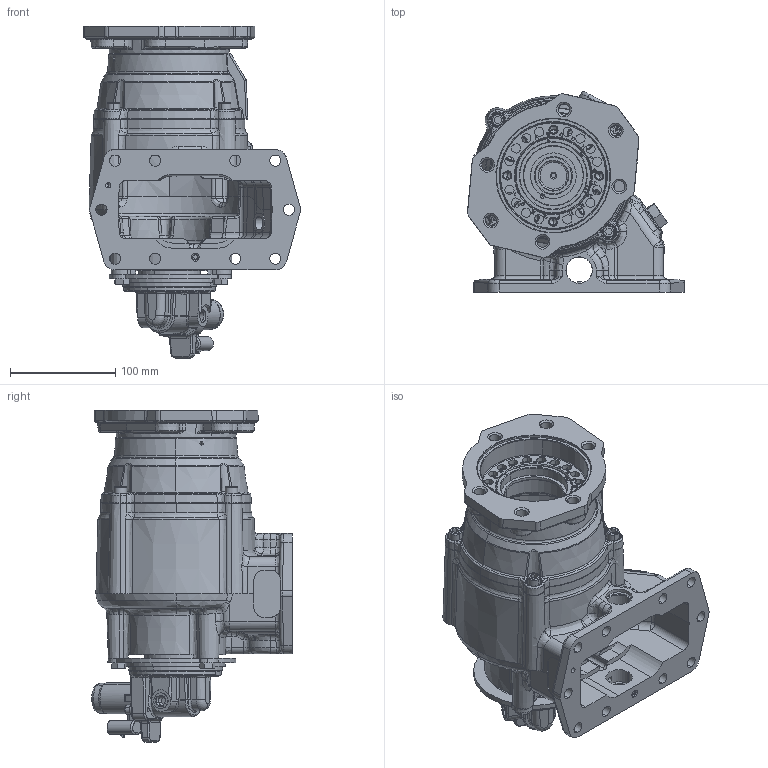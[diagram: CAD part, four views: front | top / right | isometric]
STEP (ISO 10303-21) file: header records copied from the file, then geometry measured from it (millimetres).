
FILE_DESCRIPTION (( 'STEP AP203' ), '1' );
FILE_NAME ('A20-A10XX-HX3PBPX.STEP', '2023-03-28T14:46:47', ( '' ), ( '' ), 'SwSTEP 2.0', 'SolidWorks 2021', '' );
FILE_SCHEMA (( 'CONFIG_CONTROL_DESIGN' ));
Length unit declared in the file: inch
Products named in the file (14): 47T6123TMP_Solenoid; 01T43433_3Arrangement; 15T65391DB3; 19T36588_19T36588; 14T65388DB2; DropInSolenoidRearCoverAssembly; 15T43431_FOR CLAMPS; SC-301_25T37702; 47T6123_15T43431_DUST CAP INSTALLED; 35T40860; 19T62950; 25T35999TMP; 12T36701; A20-A10XX-HX3PBPX
Assembly tree (17 placements, depth 4):
  A20-A10XX-HX3PBPX
    01T43433_3Arrangement
    15T65391DB3
    25T35999TMP
    14T65388DB2
    19T36588_19T36588  x4
    DropInSolenoidRearCoverAssembly
      47T6123TMP_Solenoid
      47T6123_15T43431_DUST CAP INSTALLED
        15T43431_FOR CLAMPS
        19T62950  x2
        12T36701
        SC-301_25T37702
    35T40860
Bounding box: 205.86 x 190.36 x 314.97 mm (x, y, z)
Volume: 777177.6 mm3; surface area: 460563.4 mm2
Topology: 24 solids, 36 shells, 4378 faces, 11277 edges, 7028 vertices
Faces by surface type: plane 1567, bspline 1331, cylinder 780, cone 398, torus 266, sphere 36
Entity records: 202075 total; most frequent: CARTESIAN_POINT 105022, ORIENTED_EDGE 21924, DIRECTION 16727, EDGE_CURVE 10971, VERTEX_POINT 6912, AXIS2_PLACEMENT_3D 5878, VECTOR 4971, LINE 4971
